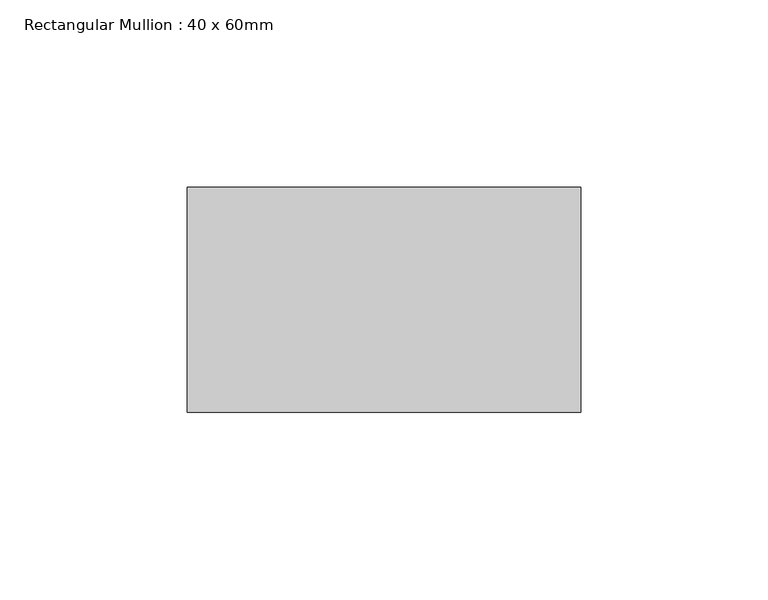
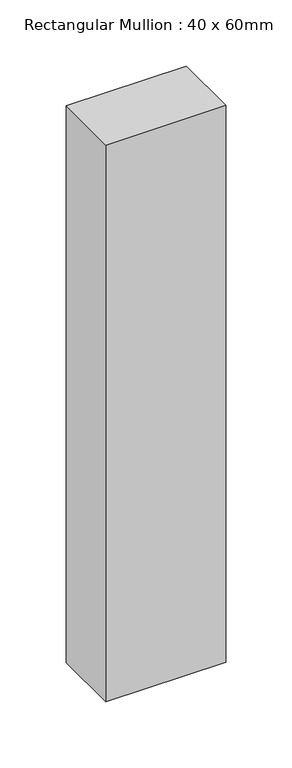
"""IFC4 building model written with IfcOpenShell, lengths in millimetres: member geometry, Rectangular Mullion : 40 x 60mm."""

from ifc_helpers import new_model, si_unit, frame, origin, place, context, project, spatial, polyline, outline, extrude, source, transform, mapped, element, save


def rectangular_mullion_40_x_60mm_4d1748a6(model_context):
    return source(origin(), model_context, "Body", "SweptSolid", [
        extrude(outline(polyline([(0.0, -10.0), (0.0, -70.0), (-105.0, -70.0), (-105.0, -10.0), (0.0, -10.0)])), frame((0.0, 0.0, -514.9249467), z_axis=(0.0, 0.0, 1.0), x_axis=(1.0, 0.0, 0.0)), (0.0, 0.0, 1.0), 514.9249467),
    ])


if __name__ == "__main__":
    model = new_model("IFC4")
    model_context = context("Model", 3, world=origin())
    ifc_project = project(units=[si_unit("LENGTHUNIT", "METRE", prefix="MILLI")], contexts=[model_context])
    site = spatial("IfcSite", under=ifc_project)
    building = spatial("IfcBuilding", under=site)
    placement = place(None, origin())
    rectangular_mullion_40_x_60mm_shape = rectangular_mullion_40_x_60mm_4d1748a6(model_context)
    element("IfcMember", 1, ObjectType="Rectangular Mullion : 40 x 60mm", at=placement, inside=building, context=model_context, shape_type="MappedRepresentation", body=[
        mapped(rectangular_mullion_40_x_60mm_shape, transform((0.0, 0.0, 0.0), x_axis=(1.0, 0.0, 0.0), y_axis=(0.0, 1.0, 0.0), z_axis=(0.0, 0.0, 1.0))),
    ])
    save(model, "model.ifc")
